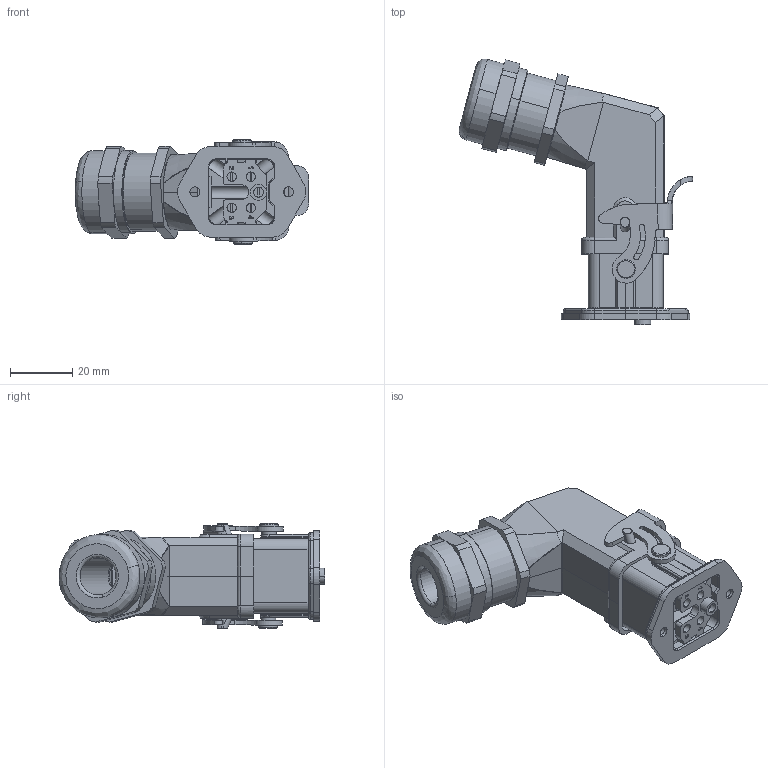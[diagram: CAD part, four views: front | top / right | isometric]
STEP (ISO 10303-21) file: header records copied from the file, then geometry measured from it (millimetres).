
FILE_DESCRIPTION (( 'STEP AP214' ), '1' );
FILE_NAME ('09004001120P H3A HA 4针、 开孔底座、侧出结构M20套件.STEP', '2024-04-16T02:50:15', ( 'L' ), ( '' ), 'SwSTEP 2.0', 'SolidWorks 2019', '' );
FILE_SCHEMA (( 'AUTOMOTIVE_DESIGN' ));
Length unit declared in the file: millimetre
Products named in the file (6): HA-004-F.stp; H3A-MAG.step; H3A-MTS-M20.step; HA-004-M.stp; FAS-20-P.step; 09004001120P H3A HA 4针、 开孔底座、侧出结构M20套件
Assembly tree (5 placements, depth 2):
  09004001120P H3A HA 4针、 开孔底座、侧出结构M20套件
    H3A-MAG.step
    H3A-MTS-M20.step
    HA-004-F.stp
    HA-004-M.stp
    FAS-20-P.step
Bounding box: 75.02 x 85.21 x 33.76 mm (x, y, z)
Volume: 33334.2 mm3; surface area: 36760.9 mm2
Topology: 6 solids, 12 shells, 1464 faces, 3982 edges, 2598 vertices
Faces by surface type: plane 721, cylinder 386, bspline 252, cone 75, sphere 20, torus 10
Entity records: 58147 total; most frequent: CARTESIAN_POINT 20903, ORIENTED_EDGE 7894, DIRECTION 5996, EDGE_CURVE 3958, VERTEX_POINT 2596, VECTOR 2186, LINE 2186, AXIS2_PLACEMENT_3D 1905
